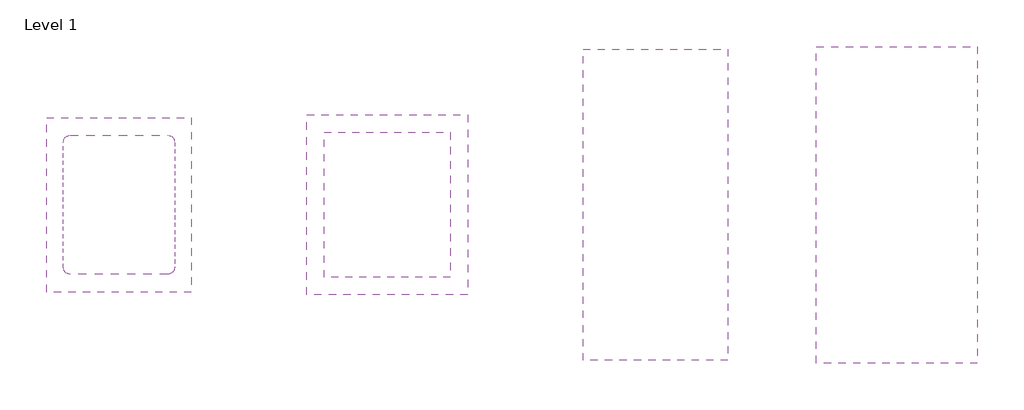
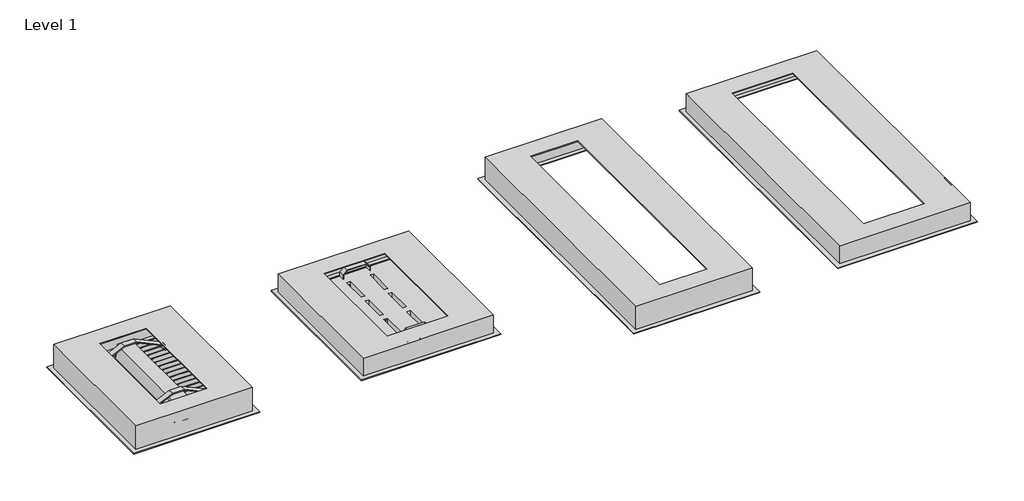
# One storey, incomplete: 6 light fixtures.
"""IFC4 building model written with IfcOpenShell, lengths in millimetres."""

from ifc_helpers import new_model, si_unit, origin, place, context, project, spatial, transform, mapped, element, save
from components import light_fixture_589004d7, light_fixture_5285f3ff, light_fixture_68bd38ac, light_fixture_6372cc0d, light_fixture_60486518, light_fixture_d2eb8d60, light_fixture_134d5059, light_fixture_4bba55b8, cr2_l_mounting_frame_a74c24b9, cr2_m_mounting_frame_06b28d9d

model = new_model("IFC4")

# Units and contexts
model_context = context("Model", 3, world=origin())
ifc_project = project(units=[si_unit("LENGTHUNIT", "METRE", prefix="MILLI")], contexts=[model_context])

# Site, building, storey
site = spatial("IfcSite", under=ifc_project)
building = spatial("IfcBuilding", under=site)
storey = spatial("IfcBuildingStorey", under=building, Name="Level 1", Elevation=0.0)

# Light fixtures
placement = place(None, origin())
light_fixture_shape = light_fixture_589004d7(model_context)
element("IfcLightFixture", 1, ObjectType="Zumtobel CR2P MOUNTING FRAME : CR2PL M MOUNTING FRAME", at=placement, inside=storey, context=model_context, shape_type="MappedRepresentation", body=[
    mapped(light_fixture_shape, transform((-11335.2398375, 3680.3256793, 3965.0), x_axis=(0.0, -1.0, 0.0), y_axis=(-1.0, 0.0, 0.0), z_axis=(0.0, 0.0, -1.0))),
])
light_fixture_2_shape = light_fixture_5285f3ff(model_context)
light_fixture_3_shape = light_fixture_68bd38ac(model_context)
light_fixture_4_shape = light_fixture_6372cc0d(model_context)
light_fixture_5_shape = light_fixture_60486518(model_context)
element("IfcLightFixture", 2, ObjectType="Zumtobel CRAFT II Plus : CR2PL M17k-840 PC WB LDO WH", at=placement, inside=storey, context=model_context, shape_type="MappedRepresentation", body=[
    mapped(light_fixture_2_shape, transform((-11335.2398375, 3680.3256793, 3962.0), x_axis=(0.0, -1.0, 0.0), y_axis=(-1.0, 0.0, 0.0), z_axis=(0.0, 0.0, -1.0))),
    mapped(light_fixture_3_shape, transform((-11335.2398375, 3680.3256793, 3962.0), x_axis=(0.0, -1.0, 0.0), y_axis=(-1.0, 0.0, 0.0), z_axis=(0.0, 0.0, -1.0))),
    mapped(light_fixture_4_shape, transform((-11335.2398375, 3680.3256793, 3962.0), x_axis=(0.0, -1.0, 0.0), y_axis=(-1.0, 0.0, 0.0), z_axis=(0.0, 0.0, -1.0))),
    mapped(light_fixture_5_shape, transform((-11335.2398375, 3680.3256793, 3962.0), x_axis=(0.0, -1.0, 0.0), y_axis=(-1.0, 0.0, 0.0), z_axis=(0.0, 0.0, -1.0))),
])
light_fixture_6_shape = light_fixture_d2eb8d60(model_context)
element("IfcLightFixture", 3, ObjectType="Zumtobel CR2P MOUNTING FRAME : CR2PL L MOUNTING FRAME", at=placement, inside=storey, context=model_context, shape_type="MappedRepresentation", body=[
    mapped(light_fixture_6_shape, transform((-9335.2398375, 3680.3256793, 3965.0), x_axis=(0.0, -1.0, 0.0), y_axis=(-1.0, 0.0, 0.0), z_axis=(0.0, 0.0, -1.0))),
])
light_fixture_7_shape = light_fixture_134d5059(model_context)
light_fixture_8_shape = light_fixture_4bba55b8(model_context)
element("IfcLightFixture", 4, ObjectType="Zumtobel CRAFT II Performance : CR2 M13k-840 PM WB LDO WH", at=placement, inside=storey, context=model_context, shape_type="MappedRepresentation", body=[
    mapped(light_fixture_7_shape, transform((-10335.2398375, 3680.3256793, 4212.0), x_axis=(0.0, -1.0, 0.0), y_axis=(-1.0, 0.0, 0.0), z_axis=(0.0, 0.0, -1.0))),
    mapped(light_fixture_8_shape, transform((-10335.2398375, 3680.3256793, 4212.0), x_axis=(0.0, -1.0, 0.0), y_axis=(-1.0, 0.0, 0.0), z_axis=(0.0, 0.0, -1.0))),
])
cr2_l_mounting_frame_shape = cr2_l_mounting_frame_a74c24b9(model_context)
element("IfcLightFixture", 5, ObjectType="Zumtobel CR2P MOUNTING FRAME : CR2 L MOUNTING FRAME", at=placement, inside=storey, context=model_context, shape_type="MappedRepresentation", body=[
    mapped(cr2_l_mounting_frame_shape, transform((-8435.2398375, 3680.3256793, 3965.0), x_axis=(0.0, -1.0, 0.0), y_axis=(-1.0, 0.0, 0.0), z_axis=(0.0, 0.0, -1.0))),
])
cr2_m_mounting_frame_shape = cr2_m_mounting_frame_06b28d9d(model_context)
element("IfcLightFixture", 6, ObjectType="Zumtobel CR2P MOUNTING FRAME : CR2 M MOUNTING FRAME", at=placement, inside=storey, context=model_context, shape_type="MappedRepresentation", body=[
    mapped(cr2_m_mounting_frame_shape, transform((-10335.2398375, 3680.3256793, 3965.0), x_axis=(0.0, -1.0, 0.0), y_axis=(-1.0, 0.0, 0.0), z_axis=(0.0, 0.0, -1.0))),
])

save(model, "model.ifc")
